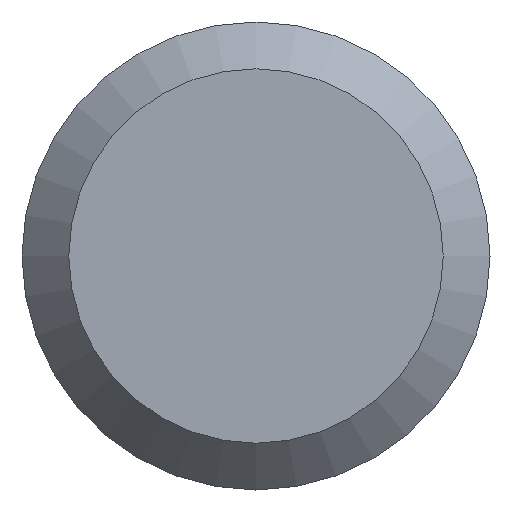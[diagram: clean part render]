
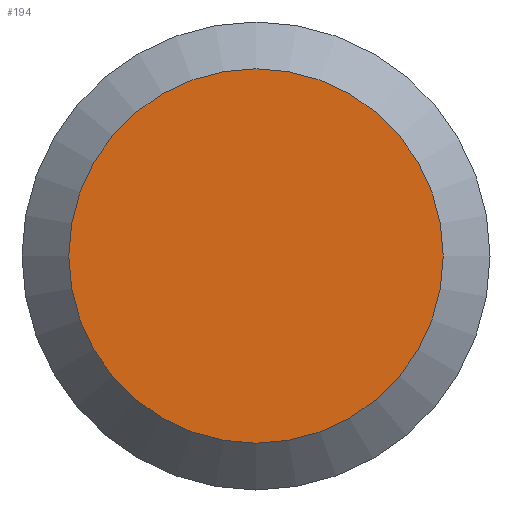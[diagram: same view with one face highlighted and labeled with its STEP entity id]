
A CAD part, left-side view. The second image highlights one B-rep face of the part: STEP entity #194.
In plain terms, the highlighted planar face has unit normal (-1, 0, 0).
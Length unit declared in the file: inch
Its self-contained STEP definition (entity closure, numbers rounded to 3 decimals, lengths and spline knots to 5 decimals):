
#3 = CARTESIAN_POINT ( 'NONE',  ( 0., 0., -0.0562 ) ) ;
#18 = EDGE_LOOP ( 'NONE', ( #142 ) ) ;
#32 = DIRECTION ( 'NONE',  ( 0., 0., -1. ) ) ;
#94 = AXIS2_PLACEMENT_3D ( 'NONE', #165, #100, #110 ) ;
#98 = DIRECTION ( 'NONE',  ( 1., 0., 0. ) ) ;
#100 = DIRECTION ( 'NONE',  ( -1., 0., 0. ) ) ;
#110 = DIRECTION ( 'NONE',  ( 0., 0., -1. ) ) ;
#124 = FACE_OUTER_BOUND ( 'NONE', #18, .T. ) ;
#137 = PLANE ( 'NONE',  #178 ) ;
#142 = ORIENTED_EDGE ( 'NONE', *, *, #192, .T. ) ;
#161 = CARTESIAN_POINT ( 'NONE',  ( 0., 0.07025, 0. ) ) ;
#165 = CARTESIAN_POINT ( 'NONE',  ( 0., 0., 0. ) ) ;
#175 = VERTEX_POINT ( 'NONE', #3 ) ;
#178 = AXIS2_PLACEMENT_3D ( 'NONE', #161, #98, #32 ) ;
#192 = EDGE_CURVE ( 'NONE', #175, #175, #216, .T. ) ;
#194 = ADVANCED_FACE ( 'NONE', ( #124 ), #137, .F. ) ;
#216 = CIRCLE ( 'NONE', #94, 0.0562 ) ;
